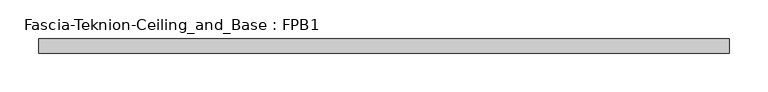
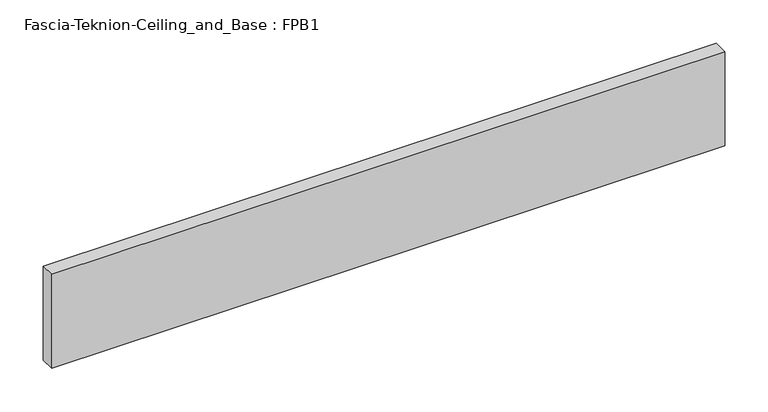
"""IFC4 building model written with IfcOpenShell, lengths in millimetres: proxy geometry, Fascia-Teknion-Ceiling_and_Base : FPB1."""

from ifc_helpers import new_model, si_unit, origin, origin_with_axes, place, context, project, spatial, polyline, outline, extrude, source, transform, mapped, element, save


def fascia_teknion_ceiling_and_base_fpb1_0bfeef01(model_context):
    return source(origin(), model_context, "Body", "SweptSolid", [
        extrude(outline(polyline([(447.0356344, 0.0), (-447.0356344, 0.0), (-447.0356344, 19.05), (447.0356344, 19.05), (447.0356344, 0.0)])), origin_with_axes(), (0.0, 0.0, 1.0), 132.08),
    ])


if __name__ == "__main__":
    model = new_model("IFC4")
    model_context = context("Model", 3, world=origin())
    ifc_project = project(units=[si_unit("LENGTHUNIT", "METRE", prefix="MILLI")], contexts=[model_context])
    site = spatial("IfcSite", under=ifc_project)
    building = spatial("IfcBuilding", under=site)
    placement = place(None, origin())
    fascia_teknion_ceiling_and_base_fpb1_shape = fascia_teknion_ceiling_and_base_fpb1_0bfeef01(model_context)
    element("IfcBuildingElementProxy", 1, Name="Fascia-Teknion-Ceiling_and_Base : FPB1", ObjectType="Fascia-Teknion-Ceiling_and_Base : FPB1", at=placement, inside=building, context=model_context, shape_type="MappedRepresentation", body=[
        mapped(fascia_teknion_ceiling_and_base_fpb1_shape, transform((0.0, 0.0, 0.0), x_axis=(1.0, 0.0, 0.0), y_axis=(0.0, 1.0, 0.0), z_axis=(0.0, 0.0, 1.0))),
    ])
    save(model, "model.ifc")
